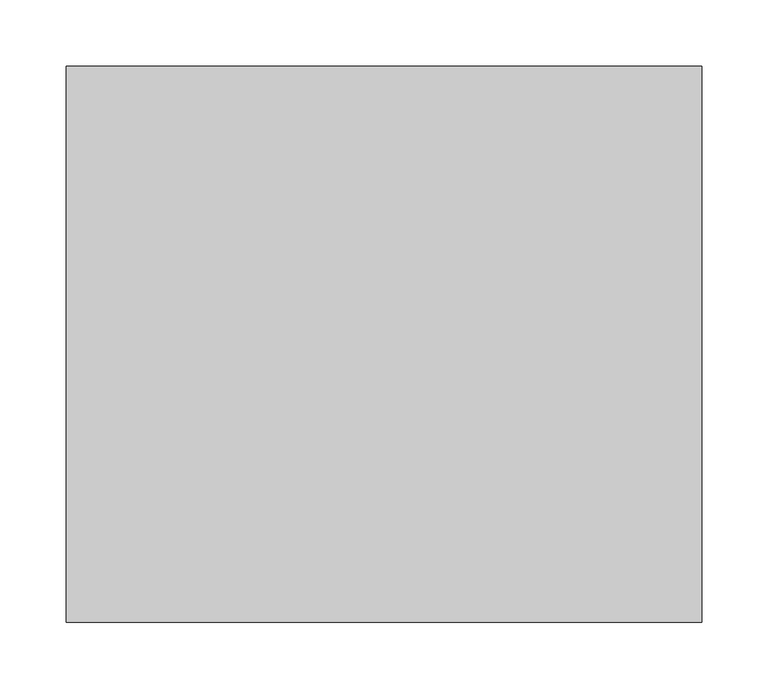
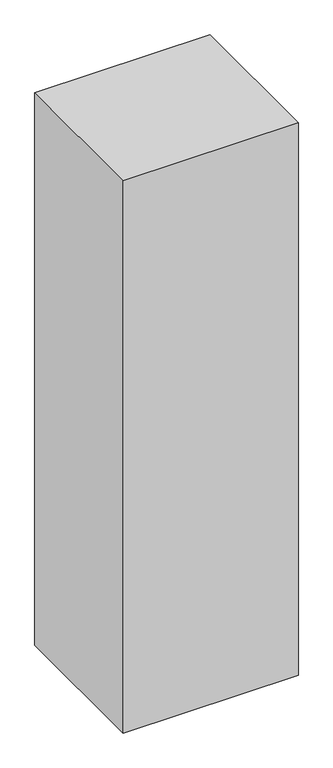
"""IFC4 building model written with IfcOpenShell, lengths in millimetres: column geometry, 2xU42 : 2xU42."""

import ifcopenshell
import ifcopenshell.guid

model = None  # the IFC model being written
_history = None  # IfcOwnerHistory: only IFC2X3 demands one
_inside = {}  # id of a spatial element -> (the spatial element, [elements in it])
_under = {}  # id of a project, library or spatial element -> (it, [spatial elements below it])
_declared = {}  # id of a project -> (the project, [libraries it declares])
_typed = {}  # id of a type object -> (the type object, [elements of that type])
_made_of = {}  # id of a material, layer set ... -> (it, [elements and type objects made of it])


def new_model(schema):
    """Start an empty IFC model of exactly this schema.

    Asked for "IFC4X3", IfcOpenShell would pick the latest addendum, in which some entities
    have other attributes; the version numbers below select the first issue.
    IFC2X3 requires an IfcOwnerHistory on every rooted entity: one is made here for all.
    """
    global model, _history
    if schema == "IFC4X3":
        model = ifcopenshell.file(schema_version=(4, 3, 0, 0))
    else:
        model = ifcopenshell.file(schema=schema)
    _inside.clear()
    _under.clear()
    _declared.clear()
    _typed.clear()
    _made_of.clear()
    _history = None
    if model.schema == "IFC2X3":
        org = make("IfcOrganization", Name="unknown")
        user = make(
            "IfcPersonAndOrganization",
            ThePerson=make("IfcPerson", FamilyName="unknown"),
            TheOrganization=org,
        )
        app = make(
            "IfcApplication",
            ApplicationDeveloper=org,
            Version="unknown",
            ApplicationFullName="unknown",
            ApplicationIdentifier="unknown",
        )
        _history = make(
            "IfcOwnerHistory",
            OwningUser=user,
            OwningApplication=app,
            ChangeAction="ADDED",
            CreationDate=0,
        )
    return model


def make(cls, **values):
    """One entity of the class cls with the attributes given. An attribute that is None is left unset."""
    return model.create_entity(
        cls, **{name: value for name, value in values.items() if value is not None}
    )


def rooted(cls, **values):
    """An entity with a GlobalId (a new one), such as an element, a storey or a relation."""
    return make(cls, GlobalId=ifcopenshell.guid.new(), OwnerHistory=_history, **values)


def si_unit(unit_type, name, prefix=None):
    """IfcSIUnit, for example si_unit("LENGTHUNIT", "METRE", prefix="MILLI")."""
    return make("IfcSIUnit", UnitType=unit_type, Prefix=prefix, Name=name)


def assignment(units):
    """IfcUnitAssignment: the units of a project."""
    return None if units is None else make("IfcUnitAssignment", Units=units)


def point(xyz):
    """IfcCartesianPoint."""
    return None if xyz is None else make("IfcCartesianPoint", Coordinates=xyz)


def direction(xyz):
    """IfcDirection."""
    return None if xyz is None else make("IfcDirection", DirectionRatios=xyz)


def frame(location, z_axis=None, x_axis=None):
    """IfcAxis2Placement3D, a coordinate frame: its origin and axes. An axis left out is left unset."""
    return make(
        "IfcAxis2Placement3D",
        Location=point(location),
        Axis=direction(z_axis),
        RefDirection=direction(x_axis),
    )


def origin():
    """The frame at (0, 0, 0) with its axes left unset."""
    return frame((0.0, 0.0, 0.0))


def origin_with_axes():
    """The frame at (0, 0, 0) with the z axis (0, 0, 1) and the x axis (1, 0, 0) written out."""
    return frame((0.0, 0.0, 0.0), z_axis=(0.0, 0.0, 1.0), x_axis=(1.0, 0.0, 0.0))


def place(relative_to, where):
    """IfcLocalPlacement: puts the frame where relative to a parent placement (None: the world)."""
    return make(
        "IfcLocalPlacement", PlacementRelTo=relative_to, RelativePlacement=where
    )


def context(
    kind, dimensions, precision=None, world=None, true_north=None, identifier=None
):
    """IfcGeometricRepresentationContext, for example the 3D "Model" context."""
    return make(
        "IfcGeometricRepresentationContext",
        ContextIdentifier=identifier,
        ContextType=kind,
        CoordinateSpaceDimension=dimensions,
        Precision=precision,
        WorldCoordinateSystem=world,
        TrueNorth=true_north,
    )


def project(units=None, contexts=None):
    """IfcProject with its units and contexts."""
    return rooted(
        "IfcProject",
        Name="project",
        RepresentationContexts=contexts,
        UnitsInContext=assignment(units),
    )


def spatial(cls, under=None, at=None, **own):
    """A site, building, storey or space (cls), placed at a placement, below another one or the project."""
    s = rooted(cls, ObjectPlacement=at, **own)
    if under is not None:
        _under.setdefault(under.id(), (under, []))[1].append(s)
    return s


def polyline(points):
    """IfcPolyline through the points."""
    return make("IfcPolyline", Points=[point(p) for p in points])


def outline(outer, holes=None, kind="AREA"):
    """IfcArbitraryClosedProfileDef: a profile drawn as a closed curve; with holes, ...WithVoids."""
    if holes is None:
        return make("IfcArbitraryClosedProfileDef", ProfileType=kind, OuterCurve=outer)
    return make(
        "IfcArbitraryProfileDefWithVoids",
        ProfileType=kind,
        OuterCurve=outer,
        InnerCurves=holes,
    )


def extrude(swept, where, along, depth):
    """IfcExtrudedAreaSolid: the profile swept, set in the frame where, extruded along a direction by depth."""
    return make(
        "IfcExtrudedAreaSolid",
        SweptArea=swept,
        Position=where,
        ExtrudedDirection=direction(along),
        Depth=depth,
    )


def shape(context_of_items, identifier, shape_type, items):
    """IfcShapeRepresentation: the items that make up one representation, for example the "Body"."""
    return make(
        "IfcShapeRepresentation",
        ContextOfItems=context_of_items,
        RepresentationIdentifier=identifier,
        RepresentationType=shape_type,
        Items=items,
    )


def source(mapping_origin, context_of_items, identifier, shape_type, items):
    """IfcRepresentationMap: a shape defined once, which mapped items show again and again."""
    return make(
        "IfcRepresentationMap",
        MappingOrigin=mapping_origin,
        MappedRepresentation=shape(context_of_items, identifier, shape_type, items),
    )


def transform(
    local_origin,
    x_axis=None,
    y_axis=None,
    z_axis=None,
    scale=None,
    scale2=None,
    scale3=None,
    uniform=True,
):
    """IfcCartesianTransformationOperator3D, or its non-uniform kind. x_axis, y_axis, z_axis: its Axis1, 2, 3."""
    if uniform:
        return make(
            "IfcCartesianTransformationOperator3D",
            Axis1=direction(x_axis),
            Axis2=direction(y_axis),
            LocalOrigin=point(local_origin),
            Scale=scale,
            Axis3=direction(z_axis),
        )
    return make(
        "IfcCartesianTransformationOperator3DnonUniform",
        Axis1=direction(x_axis),
        Axis2=direction(y_axis),
        LocalOrigin=point(local_origin),
        Scale=scale,
        Axis3=direction(z_axis),
        Scale2=scale2,
        Scale3=scale3,
    )


def mapped(mapping_source, mapping_target):
    """IfcMappedItem: shows the shape of a source again, moved by a transform."""
    return make(
        "IfcMappedItem", MappingSource=mapping_source, MappingTarget=mapping_target
    )


def made_of(thing, what):
    """Note that an element or type object is made of a material, layer set ...; save() writes the relation."""
    if what is not None:
        _made_of.setdefault(what.id(), (what, []))[1].append(thing)
    return thing


def element(
    cls,
    number,
    at=None,
    inside=None,
    cuts=None,
    type_object=None,
    material=None,
    context=None,
    identifier="Body",
    shape_type=None,
    held_by="IfcProductDefinitionShape",
    body=None,
    shapes=None,
    **own,
):
    """One element of the class cls, such as IfcWall. Its Tag is "e" and its number.

    at: its placement. inside: the storey or other place that contains it. cuts: it is an
    opening in that element (IfcRelVoidsElement). A single representation is given by context,
    identifier, shape_type and body (its items); several are given by shapes. held_by: the class
    of the entity that holds the representations. save() writes the other relations.
    """
    e = rooted(cls, Tag="e%d" % number, ObjectPlacement=at, **own)
    if body is not None:
        shapes = [shape(context, identifier, shape_type, body)]
    if shapes is not None:
        e.Representation = make(held_by, Representations=shapes)
    if inside is not None:
        _inside.setdefault(inside.id(), (inside, []))[1].append(e)
    if cuts is not None:
        rooted(
            "IfcRelVoidsElement", RelatingBuildingElement=cuts, RelatedOpeningElement=e
        )
    if type_object is not None:
        _typed.setdefault(type_object.id(), (type_object, []))[1].append(e)
    return made_of(e, material)


def aggregate(whole, parts):
    """IfcRelAggregates: a whole, such as a stair, and the parts it consists of."""
    return rooted("IfcRelAggregates", RelatingObject=whole, RelatedObjects=parts)


def save(model, path):
    """Write the relations noted so far, then the file.

    IfcRelAggregates (storeys below a building ...), IfcRelContainedInSpatialStructure (elements
    in a storey), IfcRelDefinesByType, IfcRelAssociatesMaterial and IfcRelDeclares: one each for
    every whole, place, type object, material and project.
    """
    for whole, parts in _under.values():
        aggregate(whole, parts)
    for where, things in _inside.values():
        rooted(
            "IfcRelContainedInSpatialStructure",
            RelatedElements=things,
            RelatingStructure=where,
        )
    for kind, things in _typed.values():
        rooted("IfcRelDefinesByType", RelatedObjects=things, RelatingType=kind)
    for what, things in _made_of.values():
        rooted("IfcRelAssociatesMaterial", RelatedObjects=things, RelatingMaterial=what)
    for by, libraries in _declared.values():
        rooted("IfcRelDeclares", RelatingContext=by, RelatedDefinitions=libraries)
    model.write(path)


def column_23b8ef21(model_context):
    return source(origin(), model_context, "Body", "SweptSolid", [
        extrude(outline(polyline([(-240.0, -210.0), (-240.0, 210.0), (240.0, 210.0), (240.0, -210.0), (-240.0, -210.0)])), origin_with_axes(), (0.0, 0.0, 1.0), 1600.0),
    ])


if __name__ == "__main__":
    model = new_model("IFC4")
    model_context = context("Model", 3, world=origin())
    ifc_project = project(units=[si_unit("LENGTHUNIT", "METRE", prefix="MILLI")], contexts=[model_context])
    site = spatial("IfcSite", under=ifc_project)
    building = spatial("IfcBuilding", under=site)
    placement = place(None, origin())
    column_shape = column_23b8ef21(model_context)
    element("IfcColumn", 1, ObjectType="2xU42 : 2xU42", at=placement, inside=building, context=model_context, shape_type="MappedRepresentation", body=[
        mapped(column_shape, transform((0.0, 0.0, 0.0), x_axis=(1.0, 0.0, 0.0), y_axis=(0.0, 1.0, 0.0), z_axis=(0.0, 0.0, 1.0))),
    ])
    save(model, "model.ifc")
